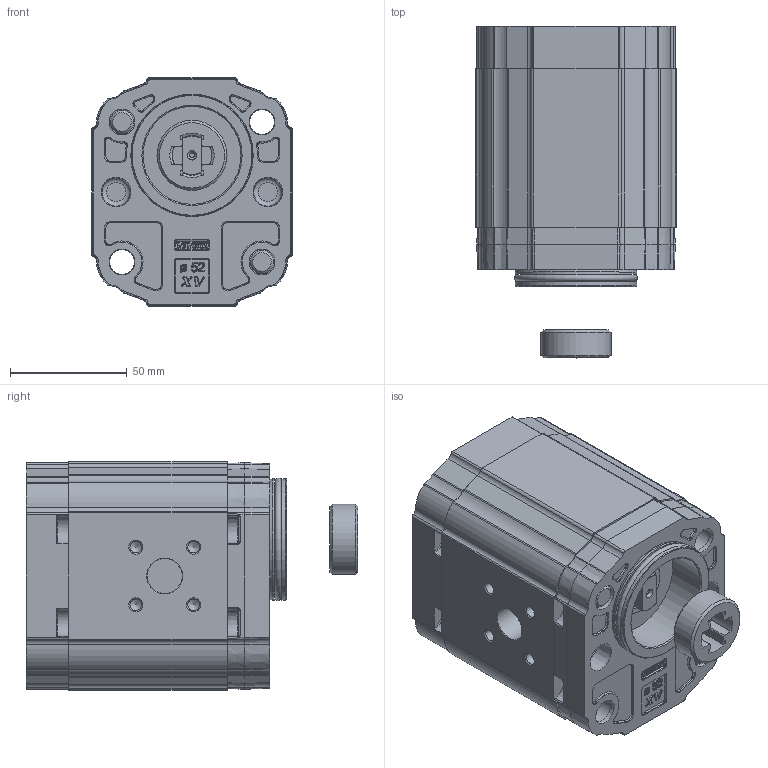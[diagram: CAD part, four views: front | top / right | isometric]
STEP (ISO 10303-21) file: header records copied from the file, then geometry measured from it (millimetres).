
FILE_DESCRIPTION(/* description */ ('Unknown'),/* implementation_level */ '2;1');
FILE_NAME(/* name */ 'X2T5131CSRD',/* time_stamp */ '2026-06-03T18:46:49+02:00',/* author */ ('Unknown'),/* organization */ ('Unknown'),/* preprocessor_version */ 'ST-DEVELOPER v16.7',/* originating_system */ 'Solid Edge',/* authorisation */ 'Unknown');
FILE_SCHEMA (('AUTOMOTIVE_DESIGN {1 0 10303 214 3 1 1}'));
Products named in the file (5): X2T5131CSRD; X2T31; 2C; X2SRH68; XT216-D
Assembly tree (4 placements, depth 2):
  X2T5131CSRD
    X2T31
    2C
    X2SRH68
    XT216-D
Bounding box: 86 x 142.2 x 98 mm (x, y, z)
Volume: 725199.3 mm3; surface area: 111524.1 mm2
Topology: 8 solids, 12 shells, 1768 faces, 4418 edges, 2727 vertices
Faces by surface type: cylinder 542, plane 500, bspline 287, cone 215, torus 181, sphere 43
Full cylindrical faces by diameter (mm): 2 x1, 3 x2, 5 x8, 10 x6, 10.5 x4, 11 x6, 12 x2, 12.5 x1, 15 x1, 16.8 x1, 17.42 x2, 20 x1, 23 x1, 25 x2, 30 x1, 32.5 x1, 36.5 x1, 42 x1, 47.8 x2, 52 x2
Entity records: 73266 total; most frequent: CARTESIAN_POINT 21029, ORIENTED_EDGE 8374, DIRECTION 8190, EDGE_CURVE 4187, AXIS2_PLACEMENT_3D 3246, VERTEX_POINT 2674, FACE_BOUND 2025, EDGE_LOOP 2015
